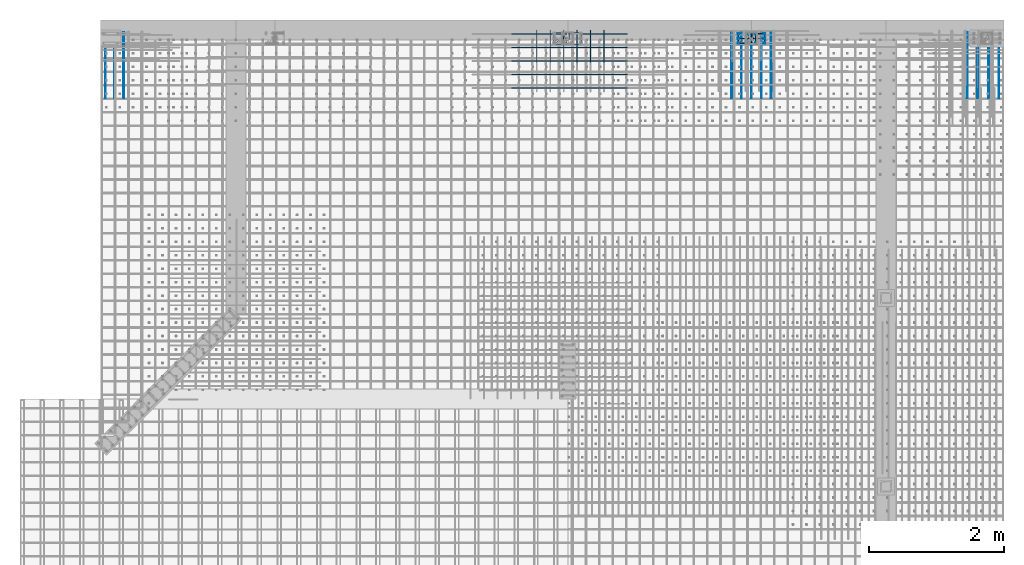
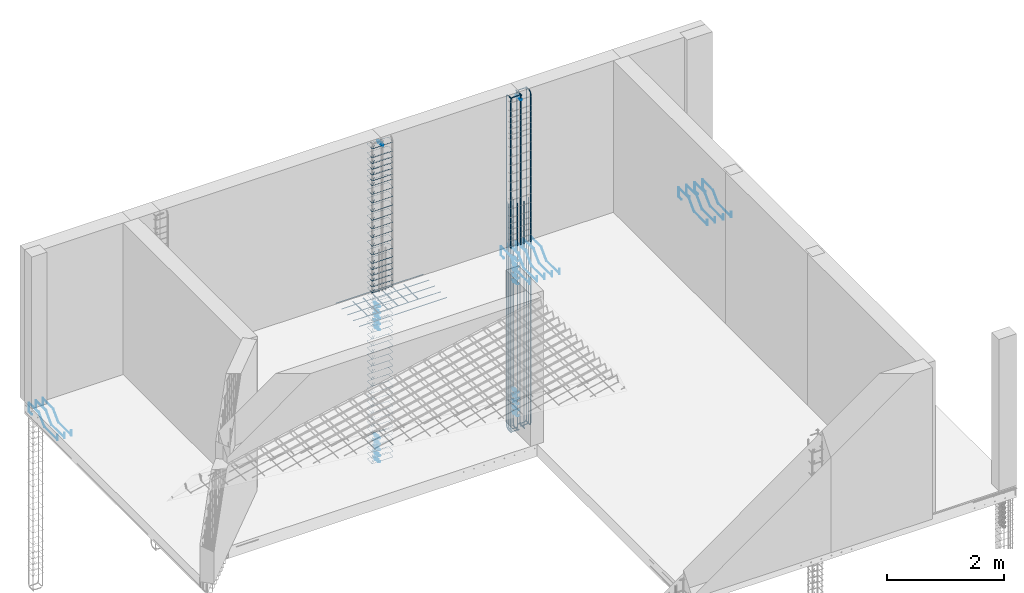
# One storey, part 13 of 17: 10 reinforcing bars.
"""IFC4 building model written with IfcOpenShell, lengths in metres."""

from ifc_helpers import new_model, entity, si_unit, frame, origin_with_axes, place, context, project, spatial, source, transform, mapped, element, save


model = new_model("IFC4")

# Units and contexts
model_context = context("Model", 3, precision=1e-05, world=origin_with_axes())
ifc_project = project(units=[si_unit("LENGTHUNIT", "METRE"), si_unit("AREAUNIT", "SQUARE_METRE"), si_unit("VOLUMEUNIT", "CUBIC_METRE"), si_unit("MASSUNIT", "GRAM", prefix="KILO"), si_unit("TIMEUNIT", "SECOND"), si_unit("PLANEANGLEUNIT", "RADIAN"), si_unit("SOLIDANGLEUNIT", "STERADIAN"), si_unit("THERMODYNAMICTEMPERATUREUNIT", "DEGREE_CELSIUS")], contexts=[model_context])

# Site, building, storey
placement_1 = place(None, origin_with_axes())
site = spatial("IfcSite", under=ifc_project, at=placement_1, Name="Italia", CompositionType="ELEMENT")
building = spatial("IfcBuilding", under=site, at=placement_1, Name="Abitazione", CompositionType="ELEMENT")
storey_placement = place(None, frame((0.0, 0.0, 3.569999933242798), z_axis=(0.0, 0.0, 1.0), x_axis=(1.0, 0.0, 0.0)))
storey = spatial("IfcBuildingStorey", under=building, at=storey_placement, Name="Storey 1", CompositionType="ELEMENT", Elevation=3.569999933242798)

# Reinforcing bars
shared_shape_1 = source(origin_with_axes(), model_context, "Body", "AdvancedSweptSolid", [
    entity("IfcSweptDiskSolid", entity("IfcIndexedPolyCurve", entity("IfcCartesianPointList3D", [[8.09363, 11.2844, 0.032], [8.07598, 11.3727, 0.032], [8.07449, 11.3763, 0.032], [8.07172, 11.379, 0.032], [8.06812, 11.3805, 0.032], [8.06422, 11.3805, 0.032], [8.05833, 11.3793, 0.032], [8.05473, 11.3778, 0.032], [8.05197, 11.3751, 0.032], [8.05048, 11.3715, 0.032], [8.05049, 11.3676, 0.032], [8.07951, 11.2224, 0.032], [8.07952, 11.2185, 0.032], [8.07803, 11.2149, 0.032], [8.07527, 11.2122, 0.032], [8.07167, 11.2107, 0.032], [8.06579, 11.2095, 0.032], [8.06188, 11.2095, 0.032], [8.05828, 11.211, 0.032], [8.05552, 11.2137, 0.032], [8.05402, 11.2173, 0.032], [8.03637, 11.3056, 0.032]]), [entity("IfcLineIndex", [1, 2]), entity("IfcLineIndex", [2, 3]), entity("IfcLineIndex", [3, 4]), entity("IfcLineIndex", [4, 5]), entity("IfcLineIndex", [5, 6]), entity("IfcLineIndex", [6, 7]), entity("IfcLineIndex", [7, 8]), entity("IfcLineIndex", [8, 9]), entity("IfcLineIndex", [9, 10]), entity("IfcLineIndex", [10, 11]), entity("IfcLineIndex", [11, 12]), entity("IfcLineIndex", [12, 13]), entity("IfcLineIndex", [13, 14]), entity("IfcLineIndex", [14, 15]), entity("IfcLineIndex", [15, 16]), entity("IfcLineIndex", [16, 17]), entity("IfcLineIndex", [17, 18]), entity("IfcLineIndex", [18, 19]), entity("IfcLineIndex", [19, 20]), entity("IfcLineIndex", [20, 21]), entity("IfcLineIndex", [21, 22])], False), 0.003),
])
placement_2 = place(placement_1, origin_with_axes())
reinforcing_bar_1_placement = place(placement_2, origin_with_axes())
element("IfcReinforcingBar", 1, at=reinforcing_bar_1_placement, inside=storey, BarLength=0.40243, CrossSectionArea=2.8274e-05, NominalDiameter=0.006, context=model_context, shape_type="MappedRepresentation", body=[
    mapped(shared_shape_1, transform((-0.466303, 0.398908, 6.567), x_axis=(0.998854, -0.047857, 0.0), y_axis=(0.047857, 0.998854, 0.0), z_axis=(0.0, 0.0, 1.0), scale=1.0)),
    mapped(shared_shape_1, transform((0.0, 0.0, 2.866), x_axis=(1.0, 0.0, 0.0), y_axis=(0.0, 1.0, 0.0), z_axis=(0.0, 0.0, 1.0), scale=1.0)),
    mapped(shared_shape_1, transform((0.0, 0.0, 2.986), x_axis=(1.0, 0.0, 0.0), y_axis=(0.0, 1.0, 0.0), z_axis=(0.0, 0.0, 1.0), scale=1.0)),
    mapped(shared_shape_1, transform((0.0, 0.0, 3.1), x_axis=(1.0, 0.0, 0.0), y_axis=(0.0, 1.0, 0.0), z_axis=(0.0, 0.0, 1.0), scale=1.0)),
    mapped(shared_shape_1, transform((0.0, 0.0, 3.226), x_axis=(1.0, 0.0, 0.0), y_axis=(0.0, 1.0, 0.0), z_axis=(0.0, 0.0, 1.0), scale=1.0)),
    mapped(shared_shape_1, transform((0.0, 0.0, 2.746), x_axis=(1.0, 0.0, 0.0), y_axis=(0.0, 1.0, 0.0), z_axis=(0.0, 0.0, 1.0), scale=1.0)),
    mapped(shared_shape_1, transform((0.0, 0.0, 0.12), x_axis=(1.0, 0.0, 0.0), y_axis=(0.0, 1.0, 0.0), z_axis=(0.0, 0.0, 1.0), scale=1.0)),
    mapped(shared_shape_1, transform((0.0, 0.0, 0.246), x_axis=(1.0, 0.0, 0.0), y_axis=(0.0, 1.0, 0.0), z_axis=(0.0, 0.0, 1.0), scale=1.0)),
    mapped(shared_shape_1, transform((0.0, 0.0, 0.366), x_axis=(1.0, 0.0, 0.0), y_axis=(0.0, 1.0, 0.0), z_axis=(0.0, 0.0, 1.0), scale=1.0)),
    mapped(shared_shape_1, transform((0.0, 0.0, 0.486), x_axis=(1.0, 0.0, 0.0), y_axis=(0.0, 1.0, 0.0), z_axis=(0.0, 0.0, 1.0), scale=1.0)),
    mapped(shared_shape_1, transform((0.0, 0.0, 0.0), x_axis=(1.0, 0.0, 0.0), y_axis=(0.0, 1.0, 0.0), z_axis=(0.0, 0.0, 1.0), scale=1.0)),
])
shared_shape_2 = source(origin_with_axes(), model_context, "Body", "AdvancedSweptSolid", [
    entity("IfcSweptDiskSolid", entity("IfcIndexedPolyCurve", entity("IfcCartesianPointList3D", [[8.01121, 11.2817, 0.047], [7.94343, 11.2139, 0.0465129], [7.93636, 11.211, 0.046474], [7.931, 11.211, 0.0464468], [7.92717, 11.2118, 0.0464269], [7.92393, 11.2139, 0.0464071], [7.92176, 11.2172, 0.0463873], [7.921, 11.221, 0.0463675], [7.921, 11.369, 0.0456154], [7.92176, 11.3728, 0.0455956], [7.92393, 11.3761, 0.0455757], [7.92717, 11.3782, 0.0455559], [7.931, 11.379, 0.0455361], [8.329, 11.379, 0.0435137], [8.33283, 11.3782, 0.0434938], [8.33607, 11.3761, 0.043474], [8.33824, 11.3728, 0.0434542], [8.339, 11.369, 0.0434343], [8.339, 11.221, 0.0426823], [8.33824, 11.2172, 0.0426625], [8.33607, 11.2139, 0.0426426], [8.33283, 11.2118, 0.0426228], [8.329, 11.211, 0.042603], [7.931, 11.211, 0.0405805], [7.92717, 11.2118, 0.0405607], [7.92393, 11.2139, 0.0405409], [7.92176, 11.2172, 0.0405211], [7.921, 11.221, 0.0405012], [7.921, 11.2264, 0.040474], [7.92393, 11.2334, 0.0404351], [7.99171, 11.3012, 0.039948]]), [entity("IfcLineIndex", [1, 2]), entity("IfcLineIndex", [2, 3]), entity("IfcLineIndex", [3, 4]), entity("IfcLineIndex", [4, 5]), entity("IfcLineIndex", [5, 6]), entity("IfcLineIndex", [6, 7]), entity("IfcLineIndex", [7, 8]), entity("IfcLineIndex", [8, 9]), entity("IfcLineIndex", [9, 10]), entity("IfcLineIndex", [10, 11]), entity("IfcLineIndex", [11, 12]), entity("IfcLineIndex", [12, 13]), entity("IfcLineIndex", [13, 14]), entity("IfcLineIndex", [14, 15]), entity("IfcLineIndex", [15, 16]), entity("IfcLineIndex", [16, 17]), entity("IfcLineIndex", [17, 18]), entity("IfcLineIndex", [18, 19]), entity("IfcLineIndex", [19, 20]), entity("IfcLineIndex", [20, 21]), entity("IfcLineIndex", [21, 22]), entity("IfcLineIndex", [22, 23]), entity("IfcLineIndex", [23, 24]), entity("IfcLineIndex", [24, 25]), entity("IfcLineIndex", [25, 26]), entity("IfcLineIndex", [26, 27]), entity("IfcLineIndex", [27, 28]), entity("IfcLineIndex", [28, 29]), entity("IfcLineIndex", [29, 30]), entity("IfcLineIndex", [30, 31])], False), 0.003),
])
reinforcing_bar_2_placement = place(placement_2, origin_with_axes())
element("IfcReinforcingBar", 2, at=reinforcing_bar_2_placement, inside=storey, BarLength=1.38779, CrossSectionArea=2.8274e-05, NominalDiameter=0.006, context=model_context, shape_type="MappedRepresentation", body=[
    mapped(shared_shape_2, transform((0.0, 0.0, 3.21998), x_axis=(1.0, 0.0, 0.0), y_axis=(0.0, 1.0, 0.0), z_axis=(0.0, 0.0, 1.0), scale=1.0)),
    mapped(shared_shape_2, transform((0.0, 0.0, 3.40698), x_axis=(1.0, 0.0, 0.0), y_axis=(0.0, 1.0, 0.0), z_axis=(0.0, 0.0, 1.0), scale=1.0)),
    mapped(shared_shape_2, transform((0.0, 0.0, 4.35122), x_axis=(1.0, 0.0, 5.30357e-05), y_axis=(0.0, 1.0, -5.68264e-05), z_axis=(-5.30357e-05, 5.68264e-05, 1.0), scale=1.0)),
    mapped(shared_shape_2, transform((0.0, 0.0, 4.53122), x_axis=(1.0, 0.0, 5.30357e-05), y_axis=(0.0, 1.0, -5.68264e-05), z_axis=(-5.30357e-05, 5.68264e-05, 1.0), scale=1.0)),
    mapped(shared_shape_2, transform((0.0, 0.0, 6.56122), x_axis=(1.0, 0.0, 5.30357e-05), y_axis=(0.0, 1.0, -5.68264e-05), z_axis=(-5.30357e-05, 5.68264e-05, 1.0), scale=1.0)),
    mapped(shared_shape_2, transform((0.0, 0.0, 4.04422), x_axis=(1.0, 0.0, 5.30357e-05), y_axis=(0.0, 1.0, -5.68264e-05), z_axis=(-5.30357e-05, 5.68264e-05, 1.0), scale=1.0)),
    mapped(shared_shape_2, transform((0.0, 0.0, 4.17122), x_axis=(1.0, 0.0, 5.30357e-05), y_axis=(0.0, 1.0, -5.68264e-05), z_axis=(-5.30357e-05, 5.68264e-05, 1.0), scale=1.0)),
    mapped(shared_shape_2, transform((0.0, 0.0, 3.68398), x_axis=(1.0, 0.0, 0.0), y_axis=(0.0, 1.0, 0.0), z_axis=(0.0, 0.0, 1.0), scale=1.0)),
    mapped(shared_shape_2, transform((0.0, 0.0, 3.80398), x_axis=(1.0, 0.0, 0.0), y_axis=(0.0, 1.0, 0.0), z_axis=(0.0, 0.0, 1.0), scale=1.0)),
    mapped(shared_shape_2, transform((0.0, 0.0, 3.92398), x_axis=(1.0, 0.0, 0.0), y_axis=(0.0, 1.0, 0.0), z_axis=(0.0, 0.0, 1.0), scale=1.0)),
    mapped(shared_shape_2, transform((0.0, 0.0, 5.07122), x_axis=(1.0, 0.0, 5.30357e-05), y_axis=(0.0, 1.0, -5.68264e-05), z_axis=(-5.30357e-05, 5.68264e-05, 1.0), scale=1.0)),
    mapped(shared_shape_2, transform((0.0, 0.0, 3.56398), x_axis=(1.0, 0.0, 0.0), y_axis=(0.0, 1.0, 0.0), z_axis=(0.0, 0.0, 1.0), scale=1.0)),
    mapped(shared_shape_2, transform((0.0, 0.0, 6.25422), x_axis=(1.0, 0.0, 5.30357e-05), y_axis=(0.0, 1.0, -5.68264e-05), z_axis=(-5.30357e-05, 5.68264e-05, 1.0), scale=1.0)),
    mapped(shared_shape_2, transform((0.0, 0.0, 4.71122), x_axis=(1.0, 0.0, 5.30357e-05), y_axis=(0.0, 1.0, -5.68264e-05), z_axis=(-5.30357e-05, 5.68264e-05, 1.0), scale=1.0)),
    mapped(shared_shape_2, transform((0.0, 0.0, 4.89122), x_axis=(1.0, 0.0, 5.30357e-05), y_axis=(0.0, 1.0, -5.68264e-05), z_axis=(-5.30357e-05, 5.68264e-05, 1.0), scale=1.0)),
    mapped(shared_shape_2, transform((0.0, 0.0, 6.01422), x_axis=(1.0, 0.0, 5.30357e-05), y_axis=(0.0, 1.0, -5.68264e-05), z_axis=(-5.30357e-05, 5.68264e-05, 1.0), scale=1.0)),
    mapped(shared_shape_2, transform((0.0, 0.0, 6.13422), x_axis=(1.0, 0.0, 5.30357e-05), y_axis=(0.0, 1.0, -5.68264e-05), z_axis=(-5.30357e-05, 5.68264e-05, 1.0), scale=1.0)),
    mapped(shared_shape_2, transform((0.0, 0.0, 5.61122), x_axis=(1.0, 0.0, 5.30357e-05), y_axis=(0.0, 1.0, -5.68264e-05), z_axis=(-5.30357e-05, 5.68264e-05, 1.0), scale=1.0)),
    mapped(shared_shape_2, transform((0.0, 0.0, 5.79121), x_axis=(1.0, 0.0, 5.30357e-05), y_axis=(0.0, 1.0, -5.68264e-05), z_axis=(-5.30357e-05, 5.68264e-05, 1.0), scale=1.0)),
    mapped(shared_shape_2, transform((0.0, 0.0, 5.89422), x_axis=(1.0, 0.0, 5.30357e-05), y_axis=(0.0, 1.0, -5.68264e-05), z_axis=(-5.30357e-05, 5.68264e-05, 1.0), scale=1.0)),
    mapped(shared_shape_2, transform((0.0, 0.0, 5.25122), x_axis=(1.0, 0.0, 5.30357e-05), y_axis=(0.0, 1.0, -5.68264e-05), z_axis=(-5.30357e-05, 5.68264e-05, 1.0), scale=1.0)),
    mapped(shared_shape_2, transform((0.0, 0.0, 5.43122), x_axis=(1.0, 0.0, 5.30357e-05), y_axis=(0.0, 1.0, -5.68264e-05), z_axis=(-5.30357e-05, 5.68264e-05, 1.0), scale=1.0)),
    mapped(shared_shape_2, transform((0.0, 0.0, 6.37422), x_axis=(1.0, 0.0, 5.30357e-05), y_axis=(0.0, 1.0, -5.68264e-05), z_axis=(-5.30357e-05, 5.68264e-05, 1.0), scale=1.0)),
    mapped(shared_shape_2, transform((0.0, 0.0, 3.09398), x_axis=(1.0, 0.0, 0.0), y_axis=(0.0, 1.0, 0.0), z_axis=(0.0, 0.0, 1.0), scale=1.0)),
    mapped(shared_shape_2, transform((0.0, 0.0, 0.113998), x_axis=(1.0, 0.0, 0.0), y_axis=(0.0, 1.0, 0.0), z_axis=(0.0, 0.0, 1.0), scale=1.0)),
    mapped(shared_shape_2, transform((0.0, 0.0, 1.05607), x_axis=(1.0, 0.0, 2.17833e-05), y_axis=(0.0, 1.0, -2.20565e-05), z_axis=(-2.17833e-05, 2.20565e-05, 1.0), scale=1.0)),
    mapped(shared_shape_2, transform((0.0, 0.0, 1.19607), x_axis=(1.0, 0.0, 2.17833e-05), y_axis=(0.0, 1.0, -2.20565e-05), z_axis=(-2.17833e-05, 2.20565e-05, 1.0), scale=1.0)),
    mapped(shared_shape_2, transform((0.0, 0.0, 0.635968), x_axis=(1.0, 0.0, 0.0), y_axis=(0.0, 1.0, 0.0), z_axis=(0.0, 0.0, 1.0), scale=1.0)),
    mapped(shared_shape_2, transform((0.0, 0.0, 0.775968), x_axis=(1.0, 0.0, 0.0), y_axis=(0.0, 1.0, 0.0), z_axis=(0.0, 0.0, 1.0), scale=1.0)),
    mapped(shared_shape_2, transform((0.0, 0.0, 0.915968), x_axis=(1.0, 0.0, 0.0), y_axis=(0.0, 1.0, 0.0), z_axis=(0.0, 0.0, 1.0), scale=1.0)),
    mapped(shared_shape_2, transform((0.0, 0.0, 0.359998), x_axis=(1.0, 0.0, 0.0), y_axis=(0.0, 1.0, 0.0), z_axis=(0.0, 0.0, 1.0), scale=1.0)),
    mapped(shared_shape_2, transform((0.0, 0.0, 0.480027), x_axis=(1.0, 0.0, 0.0), y_axis=(0.0, 1.0, 0.0), z_axis=(0.0, 0.0, 1.0), scale=1.0)),
    mapped(shared_shape_2, transform((0.0, 0.0, 1.47607), x_axis=(1.0, 0.0, 2.17833e-05), y_axis=(0.0, 1.0, -2.20565e-05), z_axis=(-2.17833e-05, 2.20565e-05, 1.0), scale=1.0)),
    mapped(shared_shape_2, transform((0.0, 0.0, 1.61607), x_axis=(1.0, 0.0, 2.17833e-05), y_axis=(0.0, 1.0, -2.20565e-05), z_axis=(-2.17833e-05, 2.20565e-05, 1.0), scale=1.0)),
    mapped(shared_shape_2, transform((0.0, 0.0, 0.239998), x_axis=(1.0, 0.0, 0.0), y_axis=(0.0, 1.0, 0.0), z_axis=(0.0, 0.0, 1.0), scale=1.0)),
    mapped(shared_shape_2, transform((0.0, 0.0, 2.73998), x_axis=(1.0, 0.0, 0.0), y_axis=(0.0, 1.0, 0.0), z_axis=(0.0, 0.0, 1.0), scale=1.0)),
    mapped(shared_shape_2, transform((0.0, 0.0, 1.33607), x_axis=(1.0, 0.0, 2.17833e-05), y_axis=(0.0, 1.0, -2.20565e-05), z_axis=(-2.17833e-05, 2.20565e-05, 1.0), scale=1.0)),
    mapped(shared_shape_2, transform((0.0, 0.0, 2.31598), x_axis=(1.0, 0.0, 0.0), y_axis=(0.0, 1.0, 0.0), z_axis=(0.0, 0.0, 1.0), scale=1.0)),
    mapped(shared_shape_2, transform((0.0, 0.0, 2.45598), x_axis=(1.0, 0.0, 0.0), y_axis=(0.0, 1.0, 0.0), z_axis=(0.0, 0.0, 1.0), scale=1.0)),
    mapped(shared_shape_2, transform((0.0, 0.0, 2.59598), x_axis=(1.0, 0.0, 0.0), y_axis=(0.0, 1.0, 0.0), z_axis=(0.0, 0.0, 1.0), scale=1.0)),
    mapped(shared_shape_2, transform((0.0, 0.0, 2.03598), x_axis=(1.0, 0.0, 0.0), y_axis=(0.0, 1.0, 0.0), z_axis=(0.0, 0.0, 1.0), scale=1.0)),
    mapped(shared_shape_2, transform((0.0, 0.0, 2.17598), x_axis=(1.0, 0.0, 0.0), y_axis=(0.0, 1.0, 0.0), z_axis=(0.0, 0.0, 1.0), scale=1.0)),
    mapped(shared_shape_2, transform((0.0, 0.0, 0.0), x_axis=(1.0, 0.0, 0.0), y_axis=(0.0, 1.0, 0.0), z_axis=(0.0, 0.0, 1.0), scale=1.0)),
    mapped(shared_shape_2, transform((0.0, 0.0, 1.75607), x_axis=(1.0, 0.0, 2.17833e-05), y_axis=(0.0, 1.0, -2.20565e-05), z_axis=(-2.17833e-05, 2.20565e-05, 1.0), scale=1.0)),
    mapped(shared_shape_2, transform((0.0, 0.0, 1.89607), x_axis=(1.0, 0.0, 2.17833e-05), y_axis=(0.0, 1.0, -2.20565e-05), z_axis=(-2.17833e-05, 2.20565e-05, 1.0), scale=1.0)),
    mapped(shared_shape_2, transform((0.0, 0.0, 2.85998), x_axis=(1.0, 0.0, 0.0), y_axis=(0.0, 1.0, 0.0), z_axis=(0.0, 0.0, 1.0), scale=1.0)),
    mapped(shared_shape_2, transform((0.0, 0.0, 2.97998), x_axis=(1.0, 0.0, 0.0), y_axis=(0.0, 1.0, 0.0), z_axis=(0.0, 0.0, 1.0), scale=1.0)),
])
shared_shape_3 = source(origin_with_axes(), model_context, "Body", "AdvancedSweptSolid", [
    entity("IfcSweptDiskSolid", entity("IfcIndexedPolyCurve", entity("IfcCartesianPointList3D", [[10.827, 11.225, -0.265], [10.72, 11.225, -0.265], [10.699, 11.225, -0.260813], [10.6811, 11.225, -0.248891], [10.6692, 11.225, -0.231048], [10.665, 11.225, -0.21], [10.665, 11.225, 0.8975]]), [entity("IfcLineIndex", [1, 2]), entity("IfcLineIndex", [2, 3]), entity("IfcLineIndex", [3, 4]), entity("IfcLineIndex", [4, 5]), entity("IfcLineIndex", [5, 6]), entity("IfcLineIndex", [6, 7])], False), 0.011),
])
reinforcing_bar_3_placement = place(placement_2, origin_with_axes())
element("IfcReinforcingBar", 3, at=reinforcing_bar_3_placement, inside=storey, BarLength=1.30034, CrossSectionArea=0.00038013, NominalDiameter=0.022, context=model_context, shape_type="MappedRepresentation", body=[
    mapped(shared_shape_3, transform((-0.300001, 22.03, 0.0), x_axis=(0.0, -1.0, 0.0), y_axis=(1.0, 0.0, 0.0), z_axis=(0.0, 0.0, 1.0), scale=1.0)),
    mapped(shared_shape_3, transform((-0.43, 22.03, 0.0), x_axis=(0.0, -1.0, 0.0), y_axis=(1.0, 0.0, 0.0), z_axis=(0.0, 0.0, 1.0), scale=1.0)),
    mapped(shared_shape_3, transform((22.15, 0.56, 0.0), x_axis=(0.0, 1.0, 0.0), y_axis=(-1.0, 0.0, 0.0), z_axis=(0.0, 0.0, 1.0), scale=1.0)),
    mapped(shared_shape_3, transform((21.72, 22.52, 0.0), x_axis=(-1.0, 0.0, 0.0), y_axis=(0.0, -1.0, 0.0), z_axis=(0.0, 0.0, 1.0), scale=1.0)),
    mapped(shared_shape_3, transform((0.0, 0.0, 0.0), x_axis=(1.0, 0.0, 0.0), y_axis=(0.0, 1.0, 0.0), z_axis=(0.0, 0.0, 1.0), scale=1.0)),
    mapped(shared_shape_3, transform((22.02, 0.56, 0.0), x_axis=(0.0, 1.0, 0.0), y_axis=(-1.0, 0.0, 0.0), z_axis=(0.0, 0.0, 1.0), scale=1.0)),
    mapped(shared_shape_3, transform((21.72, 22.59, 0.0), x_axis=(-1.0, 0.0, 0.0), y_axis=(0.0, -1.0, 0.0), z_axis=(0.0, 0.0, 1.0), scale=1.0)),
    mapped(shared_shape_3, transform((-0.56, 22.03, 0.0), x_axis=(0.0, -1.0, 0.0), y_axis=(1.0, 0.0, 0.0), z_axis=(0.0, 0.0, 1.0), scale=1.0)),
    mapped(shared_shape_3, transform((0.0, 0.0699997, 0.0), x_axis=(1.0, 0.0, 0.0), y_axis=(0.0, 1.0, 0.0), z_axis=(0.0, 0.0, 1.0), scale=1.0)),
    mapped(shared_shape_3, transform((22.28, 0.56, 0.0), x_axis=(0.0, 1.0, 0.0), y_axis=(-1.0, 0.0, 0.0), z_axis=(0.0, 0.0, 1.0), scale=1.0)),
])
shared_shape_4 = source(origin_with_axes(), model_context, "Body", "AdvancedSweptSolid", [
    entity("IfcSweptDiskSolid", entity("IfcIndexedPolyCurve", entity("IfcCartesianPointList3D", [[10.665, 11.225, 0.0], [10.665, 11.225, 4.45]]), [entity("IfcLineIndex", [1, 2])], False), 0.011),
])
reinforcing_bar_4_placement = place(placement_2, origin_with_axes())
element("IfcReinforcingBar", 4, at=reinforcing_bar_4_placement, inside=storey, BarLength=4.45, CrossSectionArea=0.00038013, NominalDiameter=0.022, context=model_context, shape_type="MappedRepresentation", body=[
    mapped(shared_shape_4, transform((0.259998, 0.139999, 0.0), x_axis=(1.0, 0.0, 0.0), y_axis=(0.0, 1.0, 0.0), z_axis=(0.0, 0.0, 1.0), scale=1.0)),
    mapped(shared_shape_4, transform((0.129999, 0.139999, 0.0), x_axis=(1.0, 0.0, 0.0), y_axis=(0.0, 1.0, 0.0), z_axis=(0.0, 0.0, 1.0), scale=1.0)),
    mapped(shared_shape_4, transform((0.259998, 0.0, 0.0), x_axis=(1.0, 0.0, 0.0), y_axis=(0.0, 1.0, 0.0), z_axis=(0.0, 0.0, 1.0), scale=1.0)),
    mapped(shared_shape_4, transform((0.389998, 0.0699949, 0.0), x_axis=(1.0, 0.0, 0.0), y_axis=(0.0, 1.0, 0.0), z_axis=(0.0, 0.0, 1.0), scale=1.0)),
    mapped(shared_shape_4, transform((0.0, 0.0, 0.0), x_axis=(1.0, 0.0, 0.0), y_axis=(0.0, 1.0, 0.0), z_axis=(0.0, 0.0, 1.0), scale=1.0)),
    mapped(shared_shape_4, transform((0.129999, 0.0, 0.0), x_axis=(1.0, 0.0, 0.0), y_axis=(0.0, 1.0, 0.0), z_axis=(0.0, 0.0, 1.0), scale=1.0)),
    mapped(shared_shape_4, transform((0.389998, 0.139999, 0.0), x_axis=(1.0, 0.0, 0.0), y_axis=(0.0, 1.0, 0.0), z_axis=(0.0, 0.0, 1.0), scale=1.0)),
    mapped(shared_shape_4, transform((0.0, 0.139999, 0.0), x_axis=(1.0, 0.0, 0.0), y_axis=(0.0, 1.0, 0.0), z_axis=(0.0, 0.0, 1.0), scale=1.0)),
    mapped(shared_shape_4, transform((0.0, 0.0699997, 0.0), x_axis=(1.0, 0.0, 0.0), y_axis=(0.0, 1.0, 0.0), z_axis=(0.0, 0.0, 1.0), scale=1.0)),
    mapped(shared_shape_4, transform((0.389998, 0.0, 0.0), x_axis=(1.0, 0.0, 0.0), y_axis=(0.0, 1.0, 0.0), z_axis=(0.0, 0.0, 1.0), scale=1.0)),
])
shared_shape_5 = source(origin_with_axes(), model_context, "Body", "AdvancedSweptSolid", [
    entity("IfcSweptDiskSolid", entity("IfcIndexedPolyCurve", entity("IfcCartesianPointList3D", [[10.664, 11.224, 3.57], [10.664, 11.224, 6.645], [10.6678, 11.224, 6.66413], [10.6786, 11.224, 6.68036], [10.6949, 11.224, 6.69119], [10.714, 11.224, 6.695], [10.826, 11.224, 6.695]]), [entity("IfcLineIndex", [1, 2]), entity("IfcLineIndex", [2, 3]), entity("IfcLineIndex", [3, 4]), entity("IfcLineIndex", [4, 5]), entity("IfcLineIndex", [5, 6]), entity("IfcLineIndex", [6, 7])], False), 0.01),
])
reinforcing_bar_5_placement = place(placement_2, origin_with_axes())
element("IfcReinforcingBar", 5, at=reinforcing_bar_5_placement, inside=storey, BarLength=3.26504, CrossSectionArea=0.00031416, NominalDiameter=0.02, context=model_context, shape_type="MappedRepresentation", body=[
    mapped(shared_shape_5, transform((-0.559999, 22.03, 0.0), x_axis=(0.0, -1.0, 0.0), y_axis=(1.0, 0.0, 0.0), z_axis=(0.0, 0.0, 1.0), scale=1.0)),
    mapped(shared_shape_5, transform((0.0, 0.0, 0.0), x_axis=(1.0, 0.0, 0.0), y_axis=(0.0, 1.0, 0.0), z_axis=(0.0, 0.0, 1.0), scale=1.0)),
    mapped(shared_shape_5, transform((22.28, 0.56, 0.0), x_axis=(0.0, 1.0, 0.0), y_axis=(-1.0, 0.0, 0.0), z_axis=(0.0, 0.0, 1.0), scale=1.0)),
    mapped(shared_shape_5, transform((21.72, 22.59, 0.0), x_axis=(-1.0, 0.0, 0.0), y_axis=(0.0, -1.0, 0.0), z_axis=(0.0, 0.0, 1.0), scale=1.0)),
])
shared_shape_6 = source(origin_with_axes(), model_context, "Body", "AdvancedSweptSolid", [
    entity("IfcSweptDiskSolid", entity("IfcIndexedPolyCurve", entity("IfcCartesianPointList3D", [[10.86, 11.368, 3.57], [10.86, 11.368, 6.655], [10.86, 11.365, 6.67031], [10.86, 11.3563, 6.68328], [10.86, 11.3433, 6.69196], [10.86, 11.328, 6.695], [10.86, 11.206, 6.695]]), [entity("IfcLineIndex", [1, 2]), entity("IfcLineIndex", [2, 3]), entity("IfcLineIndex", [3, 4]), entity("IfcLineIndex", [4, 5]), entity("IfcLineIndex", [5, 6]), entity("IfcLineIndex", [6, 7])], False), 0.008),
])
reinforcing_bar_6_placement = place(placement_2, origin_with_axes())
element("IfcReinforcingBar", 6, at=reinforcing_bar_6_placement, inside=storey, BarLength=3.26943, CrossSectionArea=0.00020106, NominalDiameter=0.016, context=model_context, shape_type="MappedRepresentation", body=[
    mapped(shared_shape_6, transform((21.72, 22.59, 0.0), x_axis=(-1.0, 0.0, 0.0), y_axis=(0.0, -1.0, 0.0), z_axis=(0.0, 0.0, 1.0), scale=1.0)),
    mapped(shared_shape_6, transform((0.0, 0.0, 0.0), x_axis=(1.0, 0.0, 0.0), y_axis=(0.0, 1.0, 0.0), z_axis=(0.0, 0.0, 1.0), scale=1.0)),
])
shared_shape_7 = source(origin_with_axes(), model_context, "Body", "AdvancedSweptSolid", [
    entity("IfcSweptDiskSolid", entity("IfcIndexedPolyCurve", entity("IfcCartesianPointList3D", [[10.8236, 11.2844, 0.032], [10.806, 11.3727, 0.032], [10.8045, 11.3763, 0.032], [10.8017, 11.379, 0.032], [10.7981, 11.3805, 0.032], [10.7942, 11.3805, 0.032], [10.7883, 11.3793, 0.032], [10.7847, 11.3778, 0.032], [10.782, 11.3751, 0.032], [10.7805, 11.3715, 0.032], [10.7805, 11.3676, 0.032], [10.8095, 11.2224, 0.032], [10.8095, 11.2185, 0.032], [10.808, 11.2149, 0.032], [10.8053, 11.2122, 0.032], [10.8017, 11.2107, 0.032], [10.7958, 11.2095, 0.032], [10.7919, 11.2095, 0.032], [10.7883, 11.211, 0.032], [10.7855, 11.2137, 0.032], [10.784, 11.2173, 0.032], [10.7664, 11.3056, 0.032]]), [entity("IfcLineIndex", [1, 2]), entity("IfcLineIndex", [2, 3]), entity("IfcLineIndex", [3, 4]), entity("IfcLineIndex", [4, 5]), entity("IfcLineIndex", [5, 6]), entity("IfcLineIndex", [6, 7]), entity("IfcLineIndex", [7, 8]), entity("IfcLineIndex", [8, 9]), entity("IfcLineIndex", [9, 10]), entity("IfcLineIndex", [10, 11]), entity("IfcLineIndex", [11, 12]), entity("IfcLineIndex", [12, 13]), entity("IfcLineIndex", [13, 14]), entity("IfcLineIndex", [14, 15]), entity("IfcLineIndex", [15, 16]), entity("IfcLineIndex", [16, 17]), entity("IfcLineIndex", [17, 18]), entity("IfcLineIndex", [18, 19]), entity("IfcLineIndex", [19, 20]), entity("IfcLineIndex", [20, 21]), entity("IfcLineIndex", [21, 22])], False), 0.003),
])
reinforcing_bar_7_placement = place(placement_2, origin_with_axes())
element("IfcReinforcingBar", 7, at=reinforcing_bar_7_placement, inside=storey, BarLength=0.40243, CrossSectionArea=2.8274e-05, NominalDiameter=0.006, context=model_context, shape_type="MappedRepresentation", body=[
    mapped(shared_shape_7, transform((-0.463175, 0.529557, 6.567), x_axis=(0.998854, -0.047857, 0.0), y_axis=(0.047857, 0.998854, 0.0), z_axis=(0.0, 0.0, 1.0), scale=1.0)),
    mapped(shared_shape_7, transform((0.0, 0.0, 2.866), x_axis=(1.0, 0.0, 0.0), y_axis=(0.0, 1.0, 0.0), z_axis=(0.0, 0.0, 1.0), scale=1.0)),
    mapped(shared_shape_7, transform((0.0, 0.0, 2.986), x_axis=(1.0, 0.0, 0.0), y_axis=(0.0, 1.0, 0.0), z_axis=(0.0, 0.0, 1.0), scale=1.0)),
    mapped(shared_shape_7, transform((0.0, 0.0, 3.1), x_axis=(1.0, 0.0, 0.0), y_axis=(0.0, 1.0, 0.0), z_axis=(0.0, 0.0, 1.0), scale=1.0)),
    mapped(shared_shape_7, transform((0.0, 0.0, 3.226), x_axis=(1.0, 0.0, 0.0), y_axis=(0.0, 1.0, 0.0), z_axis=(0.0, 0.0, 1.0), scale=1.0)),
    mapped(shared_shape_7, transform((0.0, 0.0, 2.746), x_axis=(1.0, 0.0, 0.0), y_axis=(0.0, 1.0, 0.0), z_axis=(0.0, 0.0, 1.0), scale=1.0)),
    mapped(shared_shape_7, transform((0.0, 0.0, 0.12), x_axis=(1.0, 0.0, 0.0), y_axis=(0.0, 1.0, 0.0), z_axis=(0.0, 0.0, 1.0), scale=1.0)),
    mapped(shared_shape_7, transform((0.0, 0.0, 0.246), x_axis=(1.0, 0.0, 0.0), y_axis=(0.0, 1.0, 0.0), z_axis=(0.0, 0.0, 1.0), scale=1.0)),
    mapped(shared_shape_7, transform((0.0, 0.0, 0.366), x_axis=(1.0, 0.0, 0.0), y_axis=(0.0, 1.0, 0.0), z_axis=(0.0, 0.0, 1.0), scale=1.0)),
    mapped(shared_shape_7, transform((0.0, 0.0, 0.486), x_axis=(1.0, 0.0, 0.0), y_axis=(0.0, 1.0, 0.0), z_axis=(0.0, 0.0, 1.0), scale=1.0)),
    mapped(shared_shape_7, transform((0.0, 0.0, 0.0), x_axis=(1.0, 0.0, 0.0), y_axis=(0.0, 1.0, 0.0), z_axis=(0.0, 0.0, 1.0), scale=1.0)),
])
shared_shape_8 = source(origin_with_axes(), model_context, "Body", "AdvancedSweptSolid", [
    entity("IfcSweptDiskSolid", entity("IfcIndexedPolyCurve", entity("IfcCartesianPointList3D", [[7.29169, 10.5614, 3.516], [9.0176, 10.5614, 3.516]]), [entity("IfcLineIndex", [1, 2])], False), 0.008),
])
reinforcing_bar_8_placement = place(placement_2, origin_with_axes())
element("IfcReinforcingBar", 8, at=reinforcing_bar_8_placement, inside=storey, BarLength=1.72591, CrossSectionArea=0.00020106, NominalDiameter=0.016, context=model_context, shape_type="MappedRepresentation", body=[
    mapped(shared_shape_8, transform((0.0, 0.0, 0.0), x_axis=(1.0, 0.0, 0.0), y_axis=(0.0, 1.0, 0.0), z_axis=(0.0, 0.0, 1.0), scale=1.0)),
    mapped(shared_shape_8, transform((0.0, 0.2, 0.0), x_axis=(1.0, 0.0, 0.0), y_axis=(0.0, 1.0, 0.0), z_axis=(0.0, 0.0, 1.0), scale=1.0)),
    mapped(shared_shape_8, transform((0.0, 0.4, 0.0), x_axis=(1.0, 0.0, 0.0), y_axis=(0.0, 1.0, 0.0), z_axis=(0.0, 0.0, 1.0), scale=1.0)),
    mapped(shared_shape_8, transform((0.0, 0.599999, 0.0), x_axis=(1.0, 0.0, 0.0), y_axis=(0.0, 1.0, 0.0), z_axis=(0.0, 0.0, 1.0), scale=1.0)),
    mapped(shared_shape_8, transform((0.0, 0.799999, 0.0), x_axis=(1.0, 0.0, 0.0), y_axis=(0.0, 1.0, 0.0), z_axis=(0.0, 0.0, 1.0), scale=1.0)),
])
shared_shape_9 = source(origin_with_axes(), model_context, "Body", "AdvancedSweptSolid", [
    entity("IfcSweptDiskSolid", entity("IfcIndexedPolyCurve", entity("IfcCartesianPointList3D", [[7.669, 10.9368, 3.386], [7.669, 11.42, 3.386]]), [entity("IfcLineIndex", [1, 2])], False), 0.006),
])
reinforcing_bar_9_placement = place(placement_2, origin_with_axes())
element("IfcReinforcingBar", 9, at=reinforcing_bar_9_placement, inside=storey, BarLength=0.48324, CrossSectionArea=0.0001131, NominalDiameter=0.012, context=model_context, shape_type="MappedRepresentation", body=[
    mapped(shared_shape_9, transform((0.4, 0.0, 0.0), x_axis=(1.0, 0.0, 0.0), y_axis=(0.0, 1.0, 0.0), z_axis=(0.0, 0.0, 1.0), scale=1.0)),
    mapped(shared_shape_9, transform((0.2, 0.0, 0.0), x_axis=(1.0, 0.0, 0.0), y_axis=(0.0, 1.0, 0.0), z_axis=(0.0, 0.0, 1.0), scale=1.0)),
    mapped(shared_shape_9, transform((0.0, 0.0, 0.0), x_axis=(1.0, 0.0, 0.0), y_axis=(0.0, 1.0, 0.0), z_axis=(0.0, 0.0, 1.0), scale=1.0)),
    mapped(shared_shape_9, transform((1.0, 0.0, 0.0), x_axis=(1.0, 0.0, 0.0), y_axis=(0.0, 1.0, 0.0), z_axis=(0.0, 0.0, 1.0), scale=1.0)),
    mapped(shared_shape_9, transform((0.8, 0.0, 0.0), x_axis=(1.0, 0.0, 0.0), y_axis=(0.0, 1.0, 0.0), z_axis=(0.0, 0.0, 1.0), scale=1.0)),
    mapped(shared_shape_9, transform((0.6, 0.0, 0.0), x_axis=(1.0, 0.0, 0.0), y_axis=(0.0, 1.0, 0.0), z_axis=(0.0, 0.0, 1.0), scale=1.0)),
])
shared_shape_10 = source(origin_with_axes(), model_context, "Body", "AdvancedSweptSolid", [
    entity("IfcSweptDiskSolid", entity("IfcIndexedPolyCurve", entity("IfcCartesianPointList3D", [[1.534, 11.285, 3.355], [1.534, 11.385, 3.355], [1.534, 11.385, 3.355], [1.534, 11.385, 3.535], [1.534, 11.03, 3.535], [1.534, 10.85, 3.355], [1.534, 10.413, 3.355], [1.534, 10.413, 3.355], [1.534, 10.413, 3.455]]), [entity("IfcLineIndex", [1, 2]), entity("IfcLineIndex", [2, 3]), entity("IfcLineIndex", [3, 4]), entity("IfcLineIndex", [4, 5]), entity("IfcLineIndex", [5, 6]), entity("IfcLineIndex", [6, 7]), entity("IfcLineIndex", [7, 8]), entity("IfcLineIndex", [8, 9])], False), 0.006),
])
reinforcing_bar_10_placement = place(placement_2, origin_with_axes())
element("IfcReinforcingBar", 10, at=reinforcing_bar_10_placement, inside=storey, BarLength=1.42661, CrossSectionArea=0.0001131, NominalDiameter=0.012, context=model_context, shape_type="MappedRepresentation", body=[
    mapped(shared_shape_10, transform((13.005, 0.0, 0.0), x_axis=(1.0, 0.0, 0.0), y_axis=(0.0, 1.0, 0.0), z_axis=(0.0, 0.0, 1.0), scale=1.0)),
    mapped(shared_shape_10, transform((9.17606, 0.0, 0.0), x_axis=(1.0, 0.0, 0.0), y_axis=(0.0, 1.0, 0.0), z_axis=(0.0, 0.0, 1.0), scale=1.0)),
    mapped(shared_shape_10, transform((9.326, 0.0, 0.0), x_axis=(1.0, 0.0, 0.0), y_axis=(0.0, 1.0, 0.0), z_axis=(0.0, 0.0, 1.0), scale=1.0)),
    mapped(shared_shape_10, transform((12.6877, 0.0, 0.0), x_axis=(1.0, 0.0, 0.0), y_axis=(0.0, 1.0, 0.0), z_axis=(0.0, 0.0, 1.0), scale=1.0)),
    mapped(shared_shape_10, transform((12.8493, 0.0, 0.0), x_axis=(1.0, 0.0, 0.0), y_axis=(0.0, 1.0, 0.0), z_axis=(0.0, 0.0, 1.0), scale=1.0)),
    mapped(shared_shape_10, transform((12.532, 0.0, 0.0), x_axis=(1.0, 0.0, 0.0), y_axis=(0.0, 1.0, 0.0), z_axis=(0.0, 0.0, 1.0), scale=1.0)),
    mapped(shared_shape_10, transform((-0.1365, 0.0, 0.0), x_axis=(1.0, 0.0, 0.0), y_axis=(0.0, 1.0, 0.0), z_axis=(0.0, 0.0, 1.0), scale=1.0)),
    mapped(shared_shape_10, transform((-0.273, 0.0, 0.0), x_axis=(1.0, 0.0, 0.0), y_axis=(0.0, 1.0, 0.0), z_axis=(0.0, 0.0, 1.0), scale=1.0)),
    mapped(shared_shape_10, transform((0.0, 0.0, 0.0), x_axis=(1.0, 0.0, 0.0), y_axis=(0.0, 1.0, 0.0), z_axis=(0.0, 0.0, 1.0), scale=1.0)),
    mapped(shared_shape_10, transform((9.47594, 0.0, 0.0), x_axis=(1.0, 0.0, 0.0), y_axis=(0.0, 1.0, 0.0), z_axis=(0.0, 0.0, 1.0), scale=1.0)),
    mapped(shared_shape_10, transform((9.032, 0.0, 0.0), x_axis=(1.0, 0.0, 0.0), y_axis=(0.0, 1.0, 0.0), z_axis=(0.0, 0.0, 1.0), scale=1.0)),
    mapped(shared_shape_10, transform((9.62, 0.0, 0.0), x_axis=(1.0, 0.0, 0.0), y_axis=(0.0, 1.0, 0.0), z_axis=(0.0, 0.0, 1.0), scale=1.0)),
])

save(model, "model.ifc")
